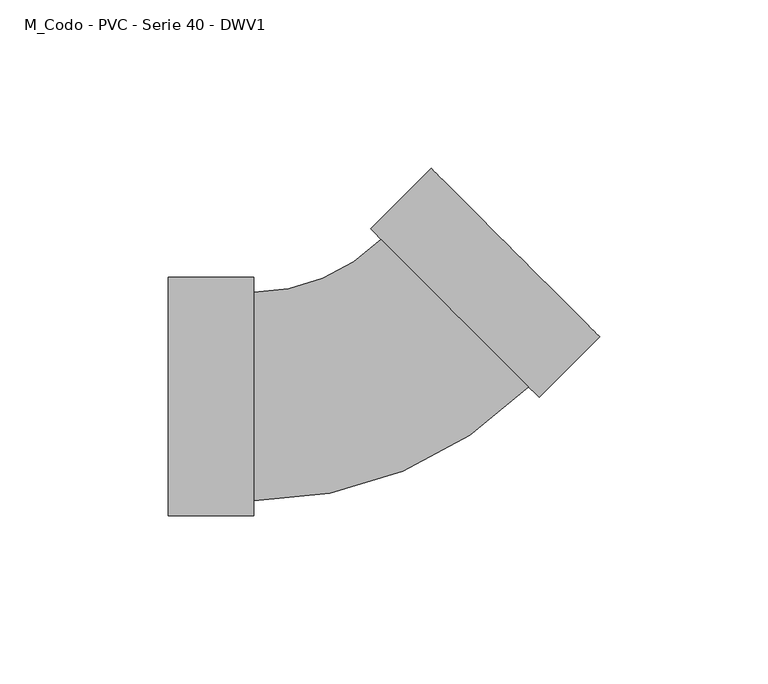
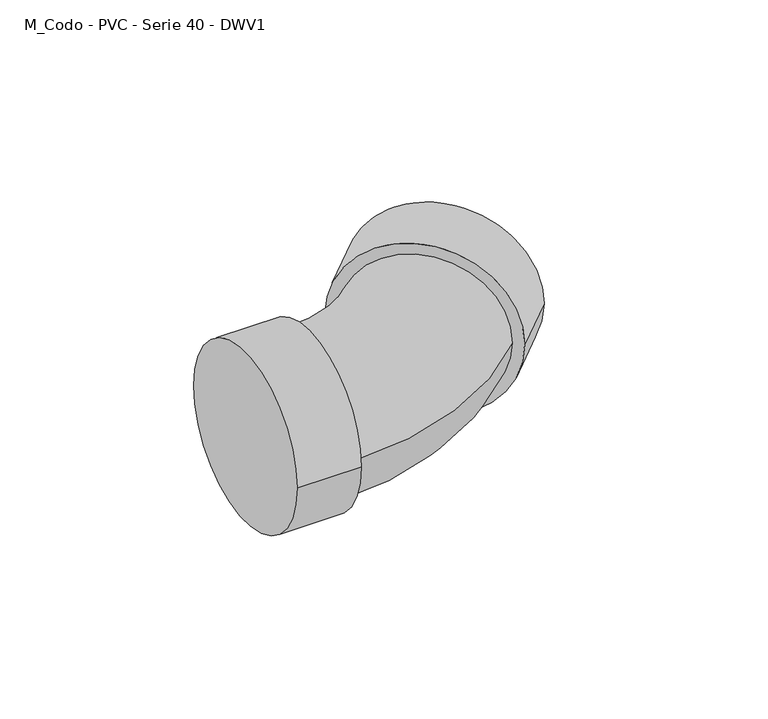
"""IFC4 building model written with IfcOpenShell, lengths in millimetres: pipe fitting geometry, M_Codo - PVC - Serie 40 - DWV1 : Estándar 2."""

from ifc_helpers import new_model, si_unit, point, frame, origin, place, context, project, spatial, circle_curve, ellipse_curve, trimmed, source, transform, mapped, element, save
from ifc_brep_helpers import plane_surface, cylinder_surface, revolved_surface, advanced_brep


def m_codo_pvc_serie_40_dwv1_6f1a2495(model_context):
    return source(origin(), model_context, "Body", "AdvancedBrep", [
        advanced_brep(
        [(-60.4281875, -35.4191094, 0.0), (-60.4281875, 35.4191094, 0.0), (-35.0281875, -35.4191094, 0.0), (-35.0281875, 35.4191094, 0.0), (-35.0281875, -30.9800625, 0.0), (-35.0281875, 30.9800625, 0.0), (2.8624566, 46.6748812, 0.0), (46.6748812, 2.8624566, 0.0), (49.8137613, -0.2764235, 0.0), (-0.2764235, 49.8137613, 0.0), (67.7742736, 17.6840887, 0.0), (17.6840887, 67.7742736, 0.0)],
        [
            (0, 1, circle_curve(frame((-60.4281875, 0.0, 0.0), z_axis=(-1.0, 0.0, 0.0), x_axis=(0.0, 1.0, 0.0)), 35.4191094)),
            (1, 0, circle_curve(frame((-60.4281875, 0.0, 0.0), z_axis=(-1.0, 0.0, 0.0), x_axis=(0.0, 1.0, 0.0)), 35.4191094)),
            (2, 3, circle_curve(frame((-35.0281875, 0.0, 0.0), z_axis=(1.0, 0.0, 0.0), x_axis=(0.0, 1.0, 0.0)), 35.4191094)),
            (3, 2, circle_curve(frame((-35.0281875, 0.0, 0.0), z_axis=(1.0, 0.0, 0.0), x_axis=(0.0, 1.0, 0.0)), 35.4191094)),
            (4, 5, circle_curve(frame((-35.0281875, 0.0, 0.0), z_axis=(-1.0, 0.0, 0.0), x_axis=(0.0, 1.0, 0.0)), 30.9800625)),
            (5, 4, circle_curve(frame((-35.0281875, 0.0, 0.0), z_axis=(-1.0, 0.0, 0.0), x_axis=(0.0, 1.0, 0.0)), 30.9800625)),
            (0, 2),
            (3, 1),
            (6, 5, circle_curve(frame((-35.0281875, 84.5655253, 0.0), z_axis=(0.0, 0.0, -1.0), x_axis=(0.0, -1.0, 0.0)), 53.5854628)),
            (4, 7, circle_curve(frame((-35.0281875, 84.5655253, 0.0), z_axis=(0.0, 0.0, 1.0), x_axis=(0.0, -1.0, 0.0)), 115.5455878)),
            (7, 6, circle_curve(frame((24.7686689, 24.7686689, 0.0), z_axis=(-0.7071067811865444, -0.7071067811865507, 0.0), x_axis=(-0.7071067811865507, 0.7071067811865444, 0.0)), 30.9800625)),
            (6, 7, circle_curve(frame((24.7686689, 24.7686689, 0.0), z_axis=(-0.7071067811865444, -0.7071067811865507, 0.0), x_axis=(-0.7071067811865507, 0.7071067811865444, 0.0)), 30.9800625)),
            (8, 9, circle_curve(frame((24.7686689, 24.7686689, 0.0), z_axis=(-0.7071067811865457, -0.7071067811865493, 0.0), x_axis=(-0.7071067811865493, 0.7071067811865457, 0.0)), 35.4191094)),
            (9, 8, circle_curve(frame((24.7686689, 24.7686689, 0.0), z_axis=(-0.7071067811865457, -0.7071067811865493, 0.0), x_axis=(-0.7071067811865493, 0.7071067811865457, 0.0)), 35.4191094)),
            (10, 11, circle_curve(frame((42.7291812, 42.7291812, 0.0), z_axis=(0.7071067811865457, 0.7071067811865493, 0.0), x_axis=(-0.7071067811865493, 0.7071067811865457, 0.0)), 35.4191094)),
            (11, 10, circle_curve(frame((42.7291812, 42.7291812, 0.0), z_axis=(0.7071067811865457, 0.7071067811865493, 0.0), x_axis=(-0.7071067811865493, 0.7071067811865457, 0.0)), 35.4191094)),
            (8, 10),
            (11, 9),
        ],
        [
            plane_surface(frame((-60.4281875, 0.0, 0.0), z_axis=(-1.0, 0.0, 0.0), x_axis=(0.0, 0.0, 1.0))),
            plane_surface(frame((-35.0281875, 0.0, 0.0), z_axis=(1.0, 0.0, 0.0), x_axis=(0.0, 0.0, 1.0))),
            cylinder_surface(frame((-60.4281875, 0.0, 0.0), z_axis=(-1.0, 0.0, 0.0), x_axis=(0.0, 1.0, 0.0)), 35.4191094),
            revolved_surface(trimmed(ellipse_curve(frame((-35.0281875, 0.0, 0.0), z_axis=(-1.0, 0.0, 0.0), x_axis=(0.0, 1.0, 0.0)), 30.9800625, 30.9800625), [point((-35.0281875, -30.9800625, 0.0))], [point((-35.0281875, 30.9800625, 0.0))], True, "CARTESIAN"), (-35.0281875, 84.5655253, 0.0), (0.0, 0.0, 1.0)),
            revolved_surface(trimmed(ellipse_curve(frame((-35.0281875, 0.0, 0.0), z_axis=(-1.0, 0.0, 0.0), x_axis=(0.0, 1.0, 0.0)), 30.9800625, 30.9800625), [point((-35.0281875, 30.9800625, 0.0))], [point((-35.0281875, -30.9800625, 0.0))], True, "CARTESIAN"), (-35.0281875, 84.5655253, 0.0), (0.0, 0.0, 1.0)),
            plane_surface(frame((24.7686689, 24.7686689, 0.0), z_axis=(-0.7071067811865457, -0.7071067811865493, 0.0), x_axis=(0.0, 0.0, 1.0))),
            plane_surface(frame((42.7291812, 42.7291812, 0.0), z_axis=(0.7071067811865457, 0.7071067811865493, 0.0), x_axis=(0.0, 0.0, 1.0))),
            cylinder_surface(frame((24.7686689, 24.7686689, 0.0), z_axis=(-0.7071067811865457, -0.7071067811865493, 0.0), x_axis=(-0.7071067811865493, 0.7071067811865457, 0.0)), 35.4191094),
        ],
        [
            (0, [[1, 2]]),
            (1, [[3, 4], [5, 6]]),
            (2, [[-1, 7, -4, 8]]),
            (2, [[-2, -8, -3, -7]]),
            (3, [[9, -5, 10, 11]]),
            (4, [[-9, 12, -10, -6]]),
            (5, [[13, 14], [-11, -12]]),
            (6, [[15, 16]]),
            (7, [[-13, 17, -16, 18]]),
            (7, [[-14, -18, -15, -17]]),
        ],
    ),
    ])


if __name__ == "__main__":
    model = new_model("IFC4")
    model_context = context("Model", 3, world=origin())
    ifc_project = project(units=[si_unit("LENGTHUNIT", "METRE", prefix="MILLI")], contexts=[model_context])
    site = spatial("IfcSite", under=ifc_project)
    building = spatial("IfcBuilding", under=site)
    placement = place(None, origin())
    m_codo_pvc_serie_40_dwv1_shape = m_codo_pvc_serie_40_dwv1_6f1a2495(model_context)
    element("IfcPipeFitting", 1, ObjectType="M_Codo - PVC - Serie 40 - DWV1 : Estándar 2", at=placement, inside=building, context=model_context, shape_type="MappedRepresentation", body=[
        mapped(m_codo_pvc_serie_40_dwv1_shape, transform((0.0, 0.0, 0.0), x_axis=(1.0, 0.0, 0.0), y_axis=(0.0, 1.0, 0.0), z_axis=(0.0, 0.0, 1.0))),
    ])
    save(model, "model.ifc")
